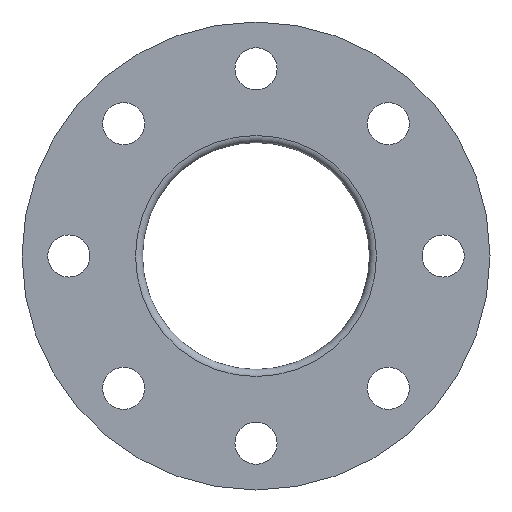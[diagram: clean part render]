
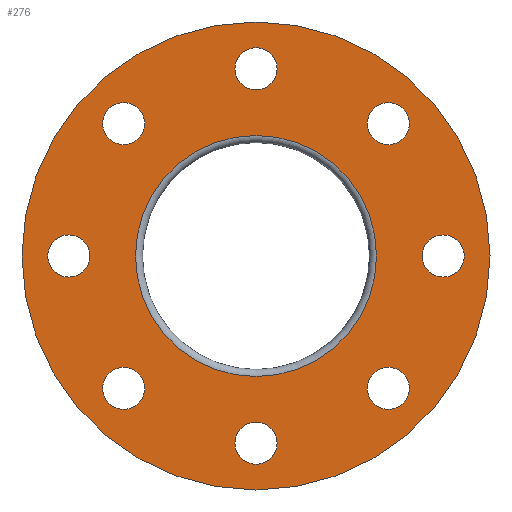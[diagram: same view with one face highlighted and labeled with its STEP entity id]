
A CAD part, front view. The second image highlights one B-rep face of the part: STEP entity #276.
In plain terms, the highlighted planar face has unit normal (0, -1, 0).
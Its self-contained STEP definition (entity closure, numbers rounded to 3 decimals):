
#15=FACE_BOUND('',#58,.T.);
#16=FACE_BOUND('',#59,.T.);
#17=FACE_BOUND('',#60,.T.);
#18=FACE_BOUND('',#61,.T.);
#19=FACE_BOUND('',#62,.T.);
#20=FACE_BOUND('',#63,.T.);
#21=FACE_BOUND('',#64,.T.);
#22=FACE_BOUND('',#65,.T.);
#23=FACE_BOUND('',#66,.T.);
#33=PLANE('',#330);
#44=FACE_OUTER_BOUND('',#57,.T.);
#57=EDGE_LOOP('',(#213));
#58=EDGE_LOOP('',(#214));
#59=EDGE_LOOP('',(#215));
#60=EDGE_LOOP('',(#216));
#61=EDGE_LOOP('',(#217));
#62=EDGE_LOOP('',(#218));
#63=EDGE_LOOP('',(#219));
#64=EDGE_LOOP('',(#220));
#65=EDGE_LOOP('',(#221));
#66=EDGE_LOOP('',(#222));
#100=CIRCLE('',#305,9.);
#102=CIRCLE('',#308,9.);
#104=CIRCLE('',#311,9.);
#106=CIRCLE('',#314,9.);
#108=CIRCLE('',#317,9.);
#110=CIRCLE('',#320,9.);
#112=CIRCLE('',#323,9.);
#114=CIRCLE('',#326,9.);
#115=CIRCLE('',#328,100.);
#117=CIRCLE('',#331,51.5);
#123=VERTEX_POINT('',#427);
#125=VERTEX_POINT('',#433);
#127=VERTEX_POINT('',#439);
#129=VERTEX_POINT('',#445);
#131=VERTEX_POINT('',#451);
#133=VERTEX_POINT('',#457);
#135=VERTEX_POINT('',#463);
#137=VERTEX_POINT('',#469);
#138=VERTEX_POINT('',#473);
#140=VERTEX_POINT('',#479);
#146=EDGE_CURVE('',#123,#123,#100,.T.);
#149=EDGE_CURVE('',#125,#125,#102,.T.);
#152=EDGE_CURVE('',#127,#127,#104,.T.);
#155=EDGE_CURVE('',#129,#129,#106,.T.);
#158=EDGE_CURVE('',#131,#131,#108,.T.);
#161=EDGE_CURVE('',#133,#133,#110,.T.);
#164=EDGE_CURVE('',#135,#135,#112,.T.);
#167=EDGE_CURVE('',#137,#137,#114,.T.);
#168=EDGE_CURVE('',#138,#138,#115,.T.);
#171=EDGE_CURVE('',#140,#140,#117,.T.);
#213=ORIENTED_EDGE('',*,*,#168,.T.);
#214=ORIENTED_EDGE('',*,*,#146,.T.);
#215=ORIENTED_EDGE('',*,*,#149,.T.);
#216=ORIENTED_EDGE('',*,*,#152,.T.);
#217=ORIENTED_EDGE('',*,*,#155,.T.);
#218=ORIENTED_EDGE('',*,*,#158,.T.);
#219=ORIENTED_EDGE('',*,*,#161,.T.);
#220=ORIENTED_EDGE('',*,*,#164,.T.);
#221=ORIENTED_EDGE('',*,*,#167,.T.);
#222=ORIENTED_EDGE('',*,*,#171,.F.);
#276=ADVANCED_FACE('',(#44,#15,#16,#17,#18,#19,#20,#21,#22,#23),#33,.T.);
#305=AXIS2_PLACEMENT_3D('',#429,#346,#347);
#308=AXIS2_PLACEMENT_3D('',#435,#353,#354);
#311=AXIS2_PLACEMENT_3D('',#441,#360,#361);
#314=AXIS2_PLACEMENT_3D('',#447,#367,#368);
#317=AXIS2_PLACEMENT_3D('',#453,#374,#375);
#320=AXIS2_PLACEMENT_3D('',#459,#381,#382);
#323=AXIS2_PLACEMENT_3D('',#465,#388,#389);
#326=AXIS2_PLACEMENT_3D('',#471,#395,#396);
#328=AXIS2_PLACEMENT_3D('',#474,#399,#400);
#330=AXIS2_PLACEMENT_3D('',#478,#404,#405);
#331=AXIS2_PLACEMENT_3D('',#480,#406,#407);
#346=DIRECTION('center_axis',(0.,1.,0.));
#347=DIRECTION('ref_axis',(0.707,0.,0.707));
#353=DIRECTION('center_axis',(0.,1.,0.));
#354=DIRECTION('ref_axis',(0.,0.,1.));
#360=DIRECTION('center_axis',(0.,1.,0.));
#361=DIRECTION('ref_axis',(-0.707,0.,0.707));
#367=DIRECTION('center_axis',(0.,1.,0.));
#368=DIRECTION('ref_axis',(-1.,0.,0.));
#374=DIRECTION('center_axis',(0.,1.,0.));
#375=DIRECTION('ref_axis',(-0.707,0.,-0.707));
#381=DIRECTION('center_axis',(0.,1.,0.));
#382=DIRECTION('ref_axis',(0.,0.,-1.));
#388=DIRECTION('center_axis',(0.,1.,0.));
#389=DIRECTION('ref_axis',(0.707,0.,-0.707));
#395=DIRECTION('center_axis',(0.,1.,0.));
#396=DIRECTION('ref_axis',(1.,0.,0.));
#399=DIRECTION('center_axis',(0.,-1.,0.));
#400=DIRECTION('ref_axis',(1.,0.,0.));
#404=DIRECTION('center_axis',(0.,-1.,0.));
#405=DIRECTION('ref_axis',(0.,0.,-1.));
#406=DIRECTION('center_axis',(0.,-1.,0.));
#407=DIRECTION('ref_axis',(1.,0.,0.));
#427=CARTESIAN_POINT('',(-62.933,0.,-62.933));
#429=CARTESIAN_POINT('Origin',(-56.569,0.,-56.569));
#433=CARTESIAN_POINT('',(0.,0.,-89.));
#435=CARTESIAN_POINT('Origin',(0.,0.,
-80.));
#439=CARTESIAN_POINT('',(62.933,0.,-62.933));
#441=CARTESIAN_POINT('Origin',(56.569,0.,-56.569));
#445=CARTESIAN_POINT('',(89.,0.,0.));
#447=CARTESIAN_POINT('Origin',(80.,0.,0.));
#451=CARTESIAN_POINT('',(62.933,0.,62.933));
#453=CARTESIAN_POINT('Origin',(56.569,0.,56.569));
#457=CARTESIAN_POINT('',(0.,0.,89.));
#459=CARTESIAN_POINT('Origin',(0.,0.,80.));
#463=CARTESIAN_POINT('',(-62.933,0.,62.933));
#465=CARTESIAN_POINT('Origin',(-56.569,0.,56.569));
#469=CARTESIAN_POINT('',(-89.,0.,0.));
#471=CARTESIAN_POINT('Origin',(-80.,0.,0.));
#473=CARTESIAN_POINT('',(100.,0.,0.));
#474=CARTESIAN_POINT('Origin',(0.,0.,0.));
#478=CARTESIAN_POINT('Origin',(-51.5,0.,0.));
#479=CARTESIAN_POINT('',(0.,0.,51.5));
#480=CARTESIAN_POINT('Origin',(0.,0.,0.));
